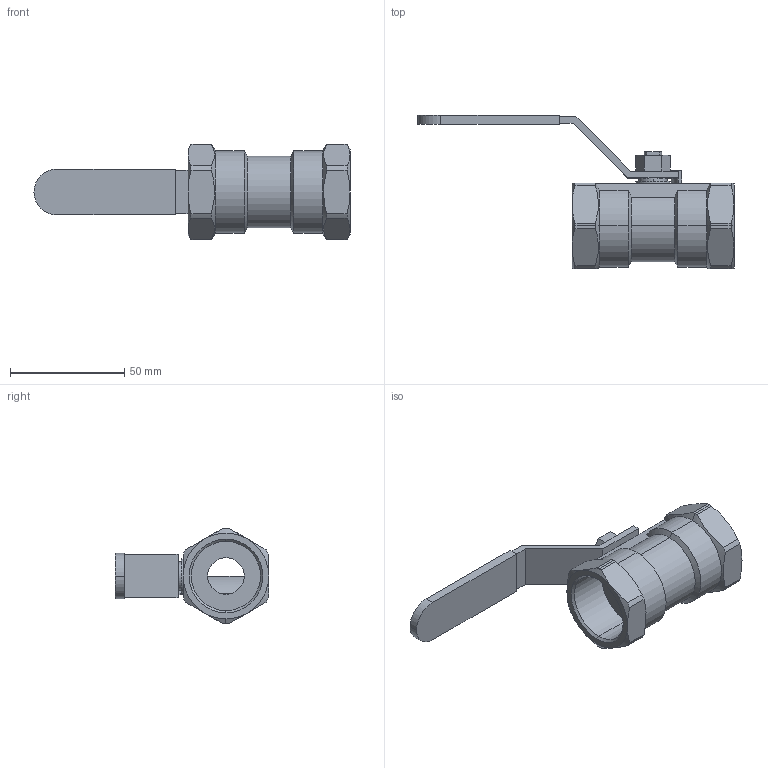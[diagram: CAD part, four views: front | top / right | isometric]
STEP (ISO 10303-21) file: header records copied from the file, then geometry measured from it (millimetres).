
FILE_DESCRIPTION (( 'STEP AP203' ), '1' );
FILE_NAME ('A3.622I025XFVPB0.STEP', '2018-11-06T09:36:58', ( '' ), ( '' ), 'SwSTEP 2.0', 'SolidWorks 2014', '' );
FILE_SCHEMA (( 'CONFIG_CONTROL_DESIGN' ));
Length unit declared in the file: millimetre
Products named in the file (1): A3.622I025XFVPB0
Bounding box: 138.5 x 67.25 x 42 mm (x, y, z)
Volume: 50647.7 mm3; surface area: 21977.2 mm2
Topology: 1 solids, 1 shells, 122 faces, 302 edges, 191 vertices
Faces by surface type: plane 50, cylinder 42, cone 30
Entity records: 3958 total; most frequent: CARTESIAN_POINT 992, ORIENTED_EDGE 604, DIRECTION 601, EDGE_CURVE 302, AXIS2_PLACEMENT_3D 226, VERTEX_POINT 191, LINE 149, VECTOR 149
